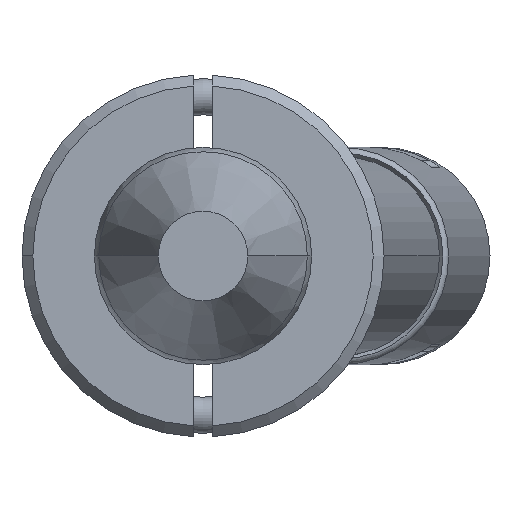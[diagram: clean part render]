
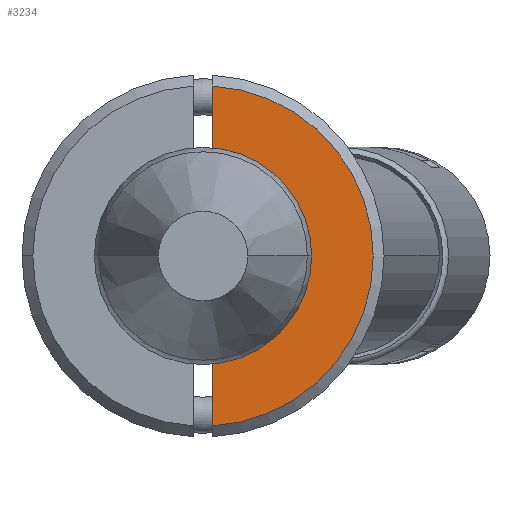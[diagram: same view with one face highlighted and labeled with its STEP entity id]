
A CAD part, front view. The second image highlights one B-rep face of the part: STEP entity #3234.
In plain terms, the highlighted planar face has unit normal (0, -1, 0).
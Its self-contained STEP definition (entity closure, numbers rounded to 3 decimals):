
#163 = CARTESIAN_POINT ( 'NONE',  ( -4.693, -6., -0.25 ) ) ;
#187 = CARTESIAN_POINT ( 'NONE',  ( -5., -6., 0. ) ) ;
#276 = CARTESIAN_POINT ( 'NONE',  ( -2.437, -6., -0.25 ) ) ;
#309 = ORIENTED_EDGE ( 'NONE', *, *, #1927, .T. ) ;
#407 = EDGE_LOOP ( 'NONE', ( #3048, #3030, #437, #309, #464 ) ) ;
#437 = ORIENTED_EDGE ( 'NONE', *, *, #3586, .F. ) ;
#458 = VECTOR ( 'NONE', #3717, 1000. ) ;
#464 = ORIENTED_EDGE ( 'NONE', *, *, #1508, .T. ) ;
#530 = LINE ( 'NONE', #3172, #458 ) ;
#576 = DIRECTION ( 'NONE',  ( 0., 1., 0. ) ) ;
#579 = CIRCLE ( 'NONE', #2760, 2.45 ) ;
#723 = VERTEX_POINT ( 'NONE', #962 ) ;
#825 = DIRECTION ( 'NONE',  ( 0., -1., 0. ) ) ;
#827 = AXIS2_PLACEMENT_3D ( 'NONE', #187, #1368, #3812 ) ;
#897 = LINE ( 'NONE', #2085, #2120 ) ;
#956 = VERTEX_POINT ( 'NONE', #163 ) ;
#962 = CARTESIAN_POINT ( 'NONE',  ( 4.693, -6., -0.25 ) ) ;
#963 = CARTESIAN_POINT ( 'NONE',  ( 0., -6., 0. ) ) ;
#982 = VERTEX_POINT ( 'NONE', #276 ) ;
#1122 = PLANE ( 'NONE',  #827 ) ;
#1124 = CIRCLE ( 'NONE', #2415, 2.45 ) ;
#1129 = CARTESIAN_POINT ( 'NONE',  ( 0., -6., 0. ) ) ;
#1368 = DIRECTION ( 'NONE',  ( 0., -1., 0. ) ) ;
#1493 = DIRECTION ( 'NONE',  ( 1., 0., 0. ) ) ;
#1508 = EDGE_CURVE ( 'NONE', #2473, #982, #579, .T. ) ;
#1700 = FACE_OUTER_BOUND ( 'NONE', #407, .T. ) ;
#1927 = EDGE_CURVE ( 'NONE', #3398, #2473, #1124, .T. ) ;
#2063 = DIRECTION ( 'NONE',  ( 0., 0., -1. ) ) ;
#2085 = CARTESIAN_POINT ( 'NONE',  ( -5., -6., -0.25 ) ) ;
#2113 = EDGE_CURVE ( 'NONE', #956, #723, #2668, .T. ) ;
#2114 = DIRECTION ( 'NONE',  ( 0., 0., -1. ) ) ;
#2120 = VECTOR ( 'NONE', #1493, 1000. ) ;
#2187 = EDGE_CURVE ( 'NONE', #956, #982, #897, .T. ) ;
#2415 = AXIS2_PLACEMENT_3D ( 'NONE', #963, #3610, #2114 ) ;
#2473 = VERTEX_POINT ( 'NONE', #3694 ) ;
#2668 = CIRCLE ( 'NONE', #3425, 4.7 ) ;
#2680 = CARTESIAN_POINT ( 'NONE',  ( 0., -6., 0. ) ) ;
#2760 = AXIS2_PLACEMENT_3D ( 'NONE', #1129, #576, #3179 ) ;
#3030 = ORIENTED_EDGE ( 'NONE', *, *, #2113, .T. ) ;
#3048 = ORIENTED_EDGE ( 'NONE', *, *, #2187, .F. ) ;
#3172 = CARTESIAN_POINT ( 'NONE',  ( -5., -6., -0.25 ) ) ;
#3179 = DIRECTION ( 'NONE',  ( 0., 0., -1. ) ) ;
#3234 = ADVANCED_FACE ( 'NONE', ( #1700 ), #1122, .T. ) ;
#3398 = VERTEX_POINT ( 'NONE', #3645 ) ;
#3425 = AXIS2_PLACEMENT_3D ( 'NONE', #2680, #825, #2063 ) ;
#3586 = EDGE_CURVE ( 'NONE', #3398, #723, #530, .T. ) ;
#3610 = DIRECTION ( 'NONE',  ( 0., 1., 0. ) ) ;
#3645 = CARTESIAN_POINT ( 'NONE',  ( 2.437, -6., -0.25 ) ) ;
#3694 = CARTESIAN_POINT ( 'NONE',  ( 0., -6., -2.45 ) ) ;
#3717 = DIRECTION ( 'NONE',  ( 1., 0., 0. ) ) ;
#3812 = DIRECTION ( 'NONE',  ( 0., 0., -1. ) ) ;
